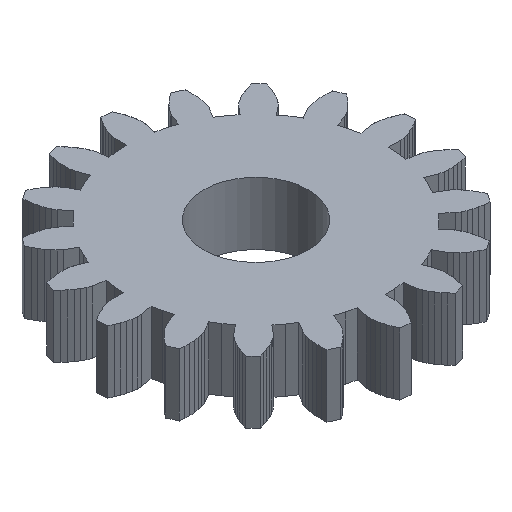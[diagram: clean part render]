
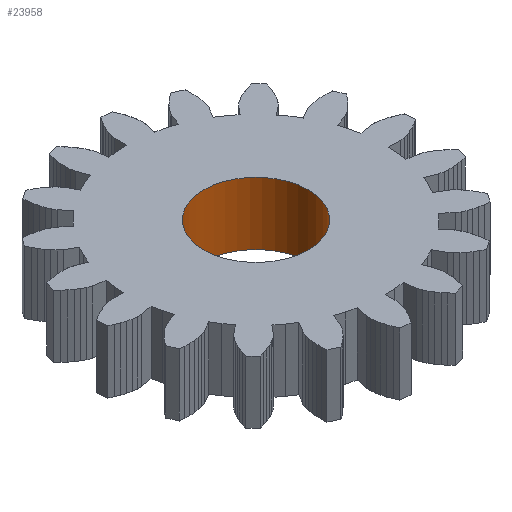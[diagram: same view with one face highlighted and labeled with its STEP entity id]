
A CAD part, isometric view. The second image highlights one B-rep face of the part: STEP entity #23958.
In plain terms, the highlighted cylindrical face has radius 2.5 mm (diameter 5 mm), a full revolution.
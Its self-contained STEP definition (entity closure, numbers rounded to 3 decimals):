
#72 = PLANE('',#73);
#73 = AXIS2_PLACEMENT_3D('',#74,#75,#76);
#74 = CARTESIAN_POINT('',(-5.85,-20.793,-42.9));
#75 = DIRECTION('',(0.,0.,1.));
#76 = DIRECTION('',(1.,0.,-0.));
#126 = PLANE('',#127);
#127 = AXIS2_PLACEMENT_3D('',#128,#129,#130);
#128 = CARTESIAN_POINT('',(-5.85,-20.793,-45.9));
#129 = DIRECTION('',(0.,0.,1.));
#130 = DIRECTION('',(1.,0.,-0.));
#8770 = EDGE_CURVE('',#8771,#8771,#8773,.T.);
#8771 = VERTEX_POINT('',#8772);
#8772 = CARTESIAN_POINT('',(-3.35,-20.793,-45.9));
#8773 = SURFACE_CURVE('',#8774,(#8779,#8786),.PCURVE_S1.);
#8774 = CIRCLE('',#8775,2.5);
#8775 = AXIS2_PLACEMENT_3D('',#8776,#8777,#8778);
#8776 = CARTESIAN_POINT('',(-5.85,-20.793,-45.9));
#8777 = DIRECTION('',(0.,0.,1.));
#8778 = DIRECTION('',(1.,0.,-0.));
#8779 = PCURVE('',#126,#8780);
#8780 = DEFINITIONAL_REPRESENTATION('',(#8781),#8785);
#8781 = CIRCLE('',#8782,2.5);
#8782 = AXIS2_PLACEMENT_2D('',#8783,#8784);
#8783 = CARTESIAN_POINT('',(0.,0.));
#8784 = DIRECTION('',(1.,0.));
#8785 = ( GEOMETRIC_REPRESENTATION_CONTEXT(2) 
PARAMETRIC_REPRESENTATION_CONTEXT() REPRESENTATION_CONTEXT('2D SPACE',''
  ) );
#8786 = PCURVE('',#8787,#8792);
#8787 = CYLINDRICAL_SURFACE('',#8788,2.5);
#8788 = AXIS2_PLACEMENT_3D('',#8789,#8790,#8791);
#8789 = CARTESIAN_POINT('',(-5.85,-20.793,-46.4));
#8790 = DIRECTION('',(0.,0.,1.));
#8791 = DIRECTION('',(1.,0.,-0.));
#8792 = DEFINITIONAL_REPRESENTATION('',(#8793),#8797);
#8793 = LINE('',#8794,#8795);
#8794 = CARTESIAN_POINT('',(0.,0.5));
#8795 = VECTOR('',#8796,1.);
#8796 = DIRECTION('',(1.,0.));
#8797 = ( GEOMETRIC_REPRESENTATION_CONTEXT(2) 
PARAMETRIC_REPRESENTATION_CONTEXT() REPRESENTATION_CONTEXT('2D SPACE',''
  ) );
#15774 = EDGE_CURVE('',#15775,#15775,#15777,.T.);
#15775 = VERTEX_POINT('',#15776);
#15776 = CARTESIAN_POINT('',(-3.35,-20.793,-42.9));
#15777 = SURFACE_CURVE('',#15778,(#15783,#15790),.PCURVE_S1.);
#15778 = CIRCLE('',#15779,2.5);
#15779 = AXIS2_PLACEMENT_3D('',#15780,#15781,#15782);
#15780 = CARTESIAN_POINT('',(-5.85,-20.793,-42.9));
#15781 = DIRECTION('',(0.,0.,1.));
#15782 = DIRECTION('',(1.,0.,-0.));
#15783 = PCURVE('',#72,#15784);
#15784 = DEFINITIONAL_REPRESENTATION('',(#15785),#15789);
#15785 = CIRCLE('',#15786,2.5);
#15786 = AXIS2_PLACEMENT_2D('',#15787,#15788);
#15787 = CARTESIAN_POINT('',(0.,0.));
#15788 = DIRECTION('',(1.,0.));
#15789 = ( GEOMETRIC_REPRESENTATION_CONTEXT(2) 
PARAMETRIC_REPRESENTATION_CONTEXT() REPRESENTATION_CONTEXT('2D SPACE',''
  ) );
#15790 = PCURVE('',#8787,#15791);
#15791 = DEFINITIONAL_REPRESENTATION('',(#15792),#15796);
#15792 = LINE('',#15793,#15794);
#15793 = CARTESIAN_POINT('',(0.,3.5));
#15794 = VECTOR('',#15795,1.);
#15795 = DIRECTION('',(1.,0.));
#15796 = ( GEOMETRIC_REPRESENTATION_CONTEXT(2) 
PARAMETRIC_REPRESENTATION_CONTEXT() REPRESENTATION_CONTEXT('2D SPACE',''
  ) );
#23958 = ADVANCED_FACE('',(#23959),#8787,.F.);
#23959 = FACE_BOUND('',#23960,.F.);
#23960 = EDGE_LOOP('',(#23961,#23962,#23983,#23984));
#23961 = ORIENTED_EDGE('',*,*,#15774,.F.);
#23962 = ORIENTED_EDGE('',*,*,#23963,.F.);
#23963 = EDGE_CURVE('',#8771,#15775,#23964,.T.);
#23964 = SEAM_CURVE('',#23965,(#23969,#23976),.PCURVE_S1.);
#23965 = LINE('',#23966,#23967);
#23966 = CARTESIAN_POINT('',(-3.35,-20.793,-46.4));
#23967 = VECTOR('',#23968,1.);
#23968 = DIRECTION('',(0.,0.,1.));
#23969 = PCURVE('',#8787,#23970);
#23970 = DEFINITIONAL_REPRESENTATION('',(#23971),#23975);
#23971 = LINE('',#23972,#23973);
#23972 = CARTESIAN_POINT('',(6.283,-0.));
#23973 = VECTOR('',#23974,1.);
#23974 = DIRECTION('',(0.,1.));
#23975 = ( GEOMETRIC_REPRESENTATION_CONTEXT(2) 
PARAMETRIC_REPRESENTATION_CONTEXT() REPRESENTATION_CONTEXT('2D SPACE',''
  ) );
#23976 = PCURVE('',#8787,#23977);
#23977 = DEFINITIONAL_REPRESENTATION('',(#23978),#23982);
#23978 = LINE('',#23979,#23980);
#23979 = CARTESIAN_POINT('',(0.,-0.));
#23980 = VECTOR('',#23981,1.);
#23981 = DIRECTION('',(0.,1.));
#23982 = ( GEOMETRIC_REPRESENTATION_CONTEXT(2) 
PARAMETRIC_REPRESENTATION_CONTEXT() REPRESENTATION_CONTEXT('2D SPACE',''
  ) );
#23983 = ORIENTED_EDGE('',*,*,#8770,.T.);
#23984 = ORIENTED_EDGE('',*,*,#23963,.T.);
